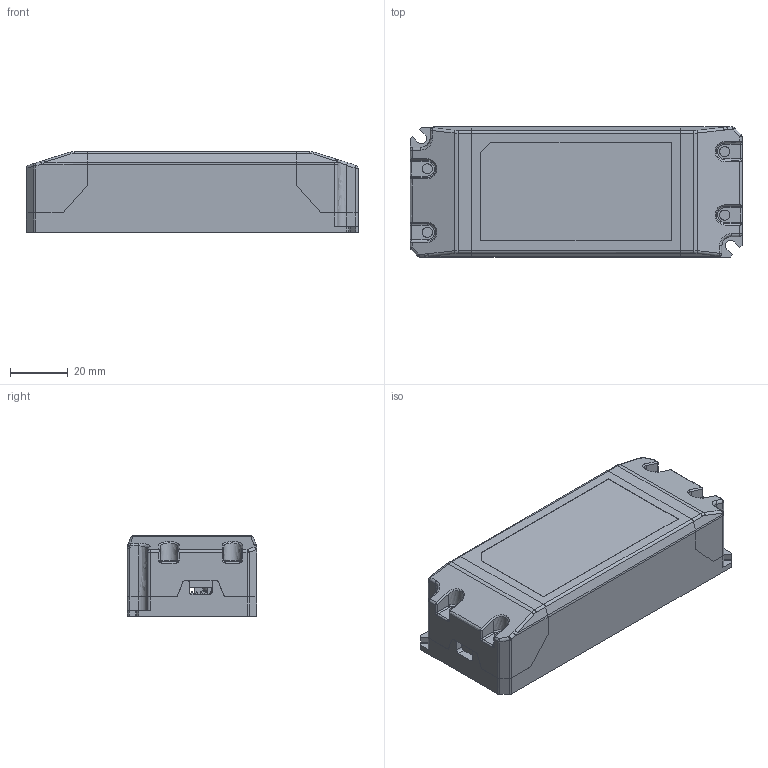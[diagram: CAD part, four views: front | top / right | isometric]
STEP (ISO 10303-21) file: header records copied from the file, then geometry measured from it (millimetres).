
FILE_DESCRIPTION(/* description */ (''),/* implementation_level */ '2;1');
FILE_NAME(/* name */ 'LS-20-XX MI',/* time_stamp */ '2022-08-09T17:16:20+08:00',/* author */ (''),/* organization */ (''),/* preprocessor_version */ 'ST-DEVELOPER v16.5',/* originating_system */ '',/* authorisation */ '');
FILE_SCHEMA (('AUTOMOTIVE_DESIGN'));
Length unit declared in the file: millimetre
Products named in the file (1): Document
Bounding box: 115 x 45 x 28 mm (x, y, z)
Volume: 31321.5 mm3; surface area: 49338.7 mm2
Topology: 4 solids, 6 shells, 833 faces, 2271 edges, 1450 vertices
Faces by surface type: plane 436, bspline 397
Entity records: 31954 total; most frequent: CARTESIAN_POINT 18064, ORIENTED_EDGE 4534, EDGE_CURVE 2271, B_SPLINE_CURVE_WITH_KNOTS 1735, VERTEX_POINT 1450, EDGE_LOOP 851, ADVANCED_FACE 833, FACE_OUTER_BOUND 833
